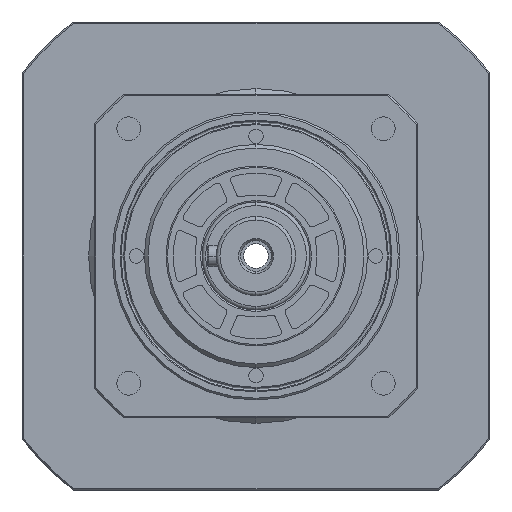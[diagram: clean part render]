
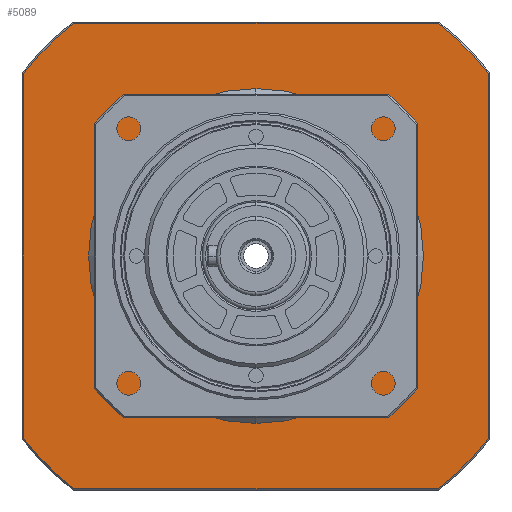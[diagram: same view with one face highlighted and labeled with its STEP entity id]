
A CAD part, left-side view. The second image highlights one B-rep face of the part: STEP entity #5089.
In plain terms, the highlighted planar face has unit normal (-1, 0, 0).
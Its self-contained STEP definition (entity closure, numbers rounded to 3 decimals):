
#77 = EDGE_LOOP ( 'NONE', ( #558, #553, #554, #555, #550, #551, #552, #547 ) ) ;
#78 = EDGE_LOOP ( 'NONE', ( #561, #556 ) ) ;
#547 = ORIENTED_EDGE ( 'NONE', *, *, #7574, .T. ) ;
#550 = ORIENTED_EDGE ( 'NONE', *, *, #7567, .T. ) ;
#551 = ORIENTED_EDGE ( 'NONE', *, *, #7564, .T. ) ;
#552 = ORIENTED_EDGE ( 'NONE', *, *, #7565, .T. ) ;
#553 = ORIENTED_EDGE ( 'NONE', *, *, #7572, .T. ) ;
#554 = ORIENTED_EDGE ( 'NONE', *, *, #7554, .T. ) ;
#555 = ORIENTED_EDGE ( 'NONE', *, *, #7706, .T. ) ;
#556 = ORIENTED_EDGE ( 'NONE', *, *, #7566, .T. ) ;
#558 = ORIENTED_EDGE ( 'NONE', *, *, #7570, .T. ) ;
#561 = ORIENTED_EDGE ( 'NONE', *, *, #7337, .T. ) ;
#3089 = CARTESIAN_POINT ( 'NONE',  ( 206.4, 2.422, 0. ) ) ;
#3099 = DIRECTION ( 'NONE',  ( 1., 0., 0. ) ) ;
#3104 = DIRECTION ( 'NONE',  ( 0., 0., -1. ) ) ;
#3913 = VECTOR ( 'NONE', #5730, 1000. ) ;
#3916 = LINE ( 'NONE', #6065, #3913 ) ;
#3926 = LINE ( 'NONE', #5858, #3927 ) ;
#3927 = VECTOR ( 'NONE', #5861, 1000. ) ;
#3928 = CIRCLE ( 'NONE', #4913, 82.1 ) ;
#3929 = LINE ( 'NONE', #6082, #3931 ) ;
#3931 = VECTOR ( 'NONE', #6083, 1000. ) ;
#3933 = CIRCLE ( 'NONE', #4915, 39.4 ) ;
#3934 = LINE ( 'NONE', #6081, #3935 ) ;
#3935 = VECTOR ( 'NONE', #6079, 1000. ) ;
#3943 = CIRCLE ( 'NONE', #4909, 82.1 ) ;
#3951 = CIRCLE ( 'NONE', #4994, 82.1 ) ;
#4055 = CIRCLE ( 'NONE', #4875, 82.1 ) ;
#4875 = AXIS2_PLACEMENT_3D ( 'NONE', #5857, #5859, #5860 ) ;
#4909 = AXIS2_PLACEMENT_3D ( 'NONE', #5566, #5595, #5567 ) ;
#4913 = AXIS2_PLACEMENT_3D ( 'NONE', #5813, #5878, #5874 ) ;
#4915 = AXIS2_PLACEMENT_3D ( 'NONE', #5855, #5872, #5898 ) ;
#4994 = AXIS2_PLACEMENT_3D ( 'NONE', #5600, #5570, #5599 ) ;
#5089 = ADVANCED_FACE ( 'NONE', ( #9640, #9641 ), #12474, .F. ) ;
#5245 = VERTEX_POINT ( 'NONE', #12376 ) ;
#5447 = VERTEX_POINT ( 'NONE', #11897 ) ;
#5566 = CARTESIAN_POINT ( 'NONE',  ( 206.4, 2.422, 0. ) ) ;
#5567 = DIRECTION ( 'NONE',  ( 0., 0., -1. ) ) ;
#5570 = DIRECTION ( 'NONE',  ( -1., 0., 0. ) ) ;
#5595 = DIRECTION ( 'NONE',  ( -1., 0., 0. ) ) ;
#5599 = DIRECTION ( 'NONE',  ( 0., 0., -1. ) ) ;
#5600 = CARTESIAN_POINT ( 'NONE',  ( 206.4, 2.422, 0. ) ) ;
#5730 = DIRECTION ( 'NONE',  ( 0., -1., 0. ) ) ;
#5813 = CARTESIAN_POINT ( 'NONE',  ( 206.4, 2.422, 0. ) ) ;
#5855 = CARTESIAN_POINT ( 'NONE',  ( 206.4, 2.422, 0. ) ) ;
#5857 = CARTESIAN_POINT ( 'NONE',  ( 206.4, 2.422, 0. ) ) ;
#5858 = CARTESIAN_POINT ( 'NONE',  ( 206.4, 41.422, 64.6 ) ) ;
#5859 = DIRECTION ( 'NONE',  ( -1., 0., 0. ) ) ;
#5860 = DIRECTION ( 'NONE',  ( 0., 0., -1. ) ) ;
#5861 = DIRECTION ( 'NONE',  ( 0., 1., 0. ) ) ;
#5872 = DIRECTION ( 'NONE',  ( 1., 0., 0. ) ) ;
#5874 = DIRECTION ( 'NONE',  ( 0., 0., -1. ) ) ;
#5878 = DIRECTION ( 'NONE',  ( -1., 0., 0. ) ) ;
#5898 = DIRECTION ( 'NONE',  ( 0., 0., -1. ) ) ;
#6065 = CARTESIAN_POINT ( 'NONE',  ( 206.4, 41.422, -64.6 ) ) ;
#6079 = DIRECTION ( 'NONE',  ( 0., 0., -1. ) ) ;
#6081 = CARTESIAN_POINT ( 'NONE',  ( 206.4, 67.022, 0. ) ) ;
#6082 = CARTESIAN_POINT ( 'NONE',  ( 206.4, -62.178, 0. ) ) ;
#6083 = DIRECTION ( 'NONE',  ( 0., 0., 1. ) ) ;
#6233 = VERTEX_POINT ( 'NONE', #12209 ) ;
#6500 = VERTEX_POINT ( 'NONE', #10065 ) ;
#6502 = VERTEX_POINT ( 'NONE', #10070 ) ;
#6514 = VERTEX_POINT ( 'NONE', #10110 ) ;
#6534 = VERTEX_POINT ( 'NONE', #10196 ) ;
#6542 = VERTEX_POINT ( 'NONE', #10223 ) ;
#6576 = VERTEX_POINT ( 'NONE', #9938 ) ;
#6745 = VERTEX_POINT ( 'NONE', #10256 ) ;
#7337 = EDGE_CURVE ( 'NONE', #5447, #5245, #11127, .T. ) ;
#7554 = EDGE_CURVE ( 'NONE', #6534, #6502, #3916, .T. ) ;
#7564 = EDGE_CURVE ( 'NONE', #6500, #6576, #3928, .T. ) ;
#7565 = EDGE_CURVE ( 'NONE', #6576, #6542, #3926, .T. ) ;
#7566 = EDGE_CURVE ( 'NONE', #5245, #5447, #3933, .T. ) ;
#7567 = EDGE_CURVE ( 'NONE', #6233, #6500, #3929, .T. ) ;
#7570 = EDGE_CURVE ( 'NONE', #6745, #6514, #3934, .T. ) ;
#7572 = EDGE_CURVE ( 'NONE', #6514, #6534, #3943, .T. ) ;
#7574 = EDGE_CURVE ( 'NONE', #6542, #6745, #3951, .T. ) ;
#7706 = EDGE_CURVE ( 'NONE', #6502, #6233, #4055, .T. ) ;
#9640 = FACE_BOUND ( 'NONE', #78, .T. ) ;
#9641 = FACE_OUTER_BOUND ( 'NONE', #77, .T. ) ;
#9938 = CARTESIAN_POINT ( 'NONE',  ( 206.4, -48.246, 64.6 ) ) ;
#10065 = CARTESIAN_POINT ( 'NONE',  ( 206.4, -62.178, 50.668 ) ) ;
#10070 = CARTESIAN_POINT ( 'NONE',  ( 206.4, -48.246, -64.6 ) ) ;
#10110 = CARTESIAN_POINT ( 'NONE',  ( 206.4, 67.022, -50.668 ) ) ;
#10196 = CARTESIAN_POINT ( 'NONE',  ( 206.4, 53.09, -64.6 ) ) ;
#10223 = CARTESIAN_POINT ( 'NONE',  ( 206.4, 53.09, 64.6 ) ) ;
#10256 = CARTESIAN_POINT ( 'NONE',  ( 206.4, 67.022, 50.668 ) ) ;
#11127 = CIRCLE ( 'NONE', #12791, 39.4 ) ;
#11897 = CARTESIAN_POINT ( 'NONE',  ( 206.4, 2.422, 39.4 ) ) ;
#12209 = CARTESIAN_POINT ( 'NONE',  ( 206.4, -62.178, -50.668 ) ) ;
#12376 = CARTESIAN_POINT ( 'NONE',  ( 206.4, 2.422, -39.4 ) ) ;
#12474 = PLANE ( 'NONE',  #13132 ) ;
#12477 = CARTESIAN_POINT ( 'NONE',  ( 206.4, 41.422, 0. ) ) ;
#12478 = DIRECTION ( 'NONE',  ( 0., 0., -1. ) ) ;
#12479 = DIRECTION ( 'NONE',  ( 1., 0., 0. ) ) ;
#12791 = AXIS2_PLACEMENT_3D ( 'NONE', #3089, #3099, #3104 ) ;
#13132 = AXIS2_PLACEMENT_3D ( 'NONE', #12477, #12479, #12478 ) ;
